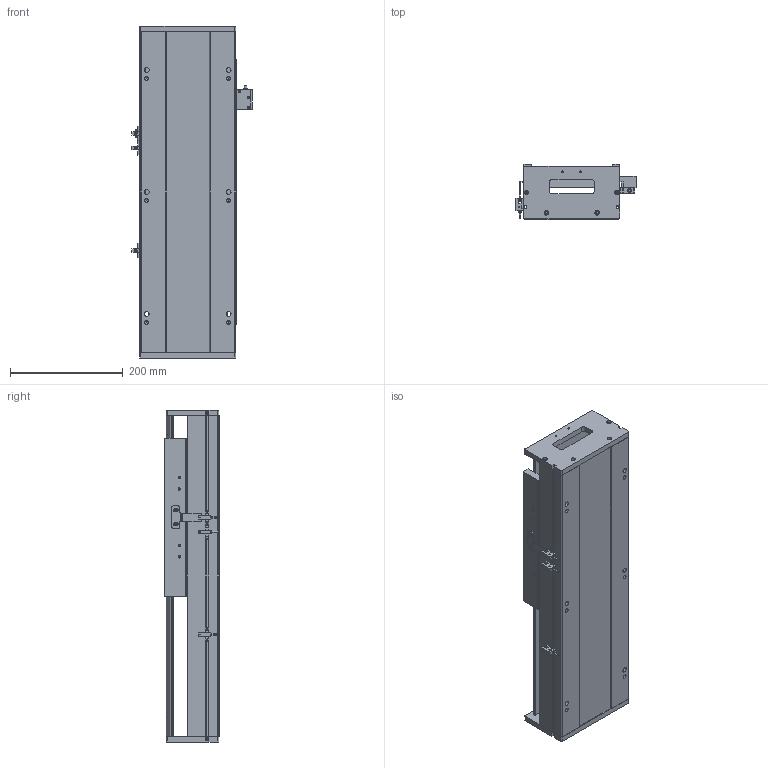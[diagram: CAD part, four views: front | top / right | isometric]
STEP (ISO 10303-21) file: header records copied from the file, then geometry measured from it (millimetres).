
FILE_DESCRIPTION (( 'STEP AP203' ), '1' );
FILE_NAME ('SKR17S-C2-S208（简）.STEP', '2022-09-29T07:04:52', ( '' ), ( '' ), 'SwSTEP 2.0', 'SolidWorks 2018', '' );
FILE_SCHEMA (( 'CONFIG_CONTROL_DESIGN' ));
Length unit declared in the file: millimetre
Products named in the file (8): SIKO棠掑; EE-SX672; SKR17耜啣; 棠掑假蚾輸; 感应片（SKR12S-14S-17S）; SKR17菁釱-C2-S208(潠); SKR17滑台-280L（简）; SKR17S-C2-S208（简）
Assembly tree (10 placements, depth 2):
  SKR17S-C2-S208（简）
    SKR17菁釱-C2-S208(潠)
    SIKO棠掑
    EE-SX672  x3
    SKR17耜啣  x2
    棠掑假蚾輸
    SKR17滑台-280L（简）
    感应片（SKR12S-14S-17S）
Bounding box: 212.7 x 97 x 588 mm (x, y, z)
Volume: 5371133.3 mm3; surface area: 739555 mm2
Topology: 11 solids, 11 shells, 952 faces, 2616 edges, 1680 vertices
Faces by surface type: plane 425, cylinder 421, cone 106
Entity records: 27171 total; most frequent: CARTESIAN_POINT 6159, ORIENTED_EDGE 4268, DIRECTION 4165, EDGE_CURVE 2134, AXIS2_PLACEMENT_3D 1470, VERTEX_POINT 1384, LINE 1225, VECTOR 1225
